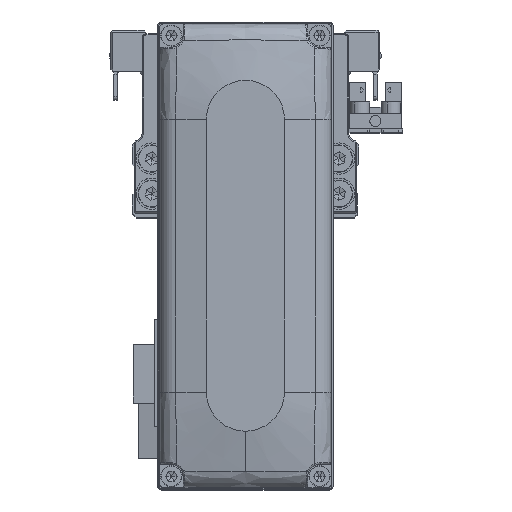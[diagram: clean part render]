
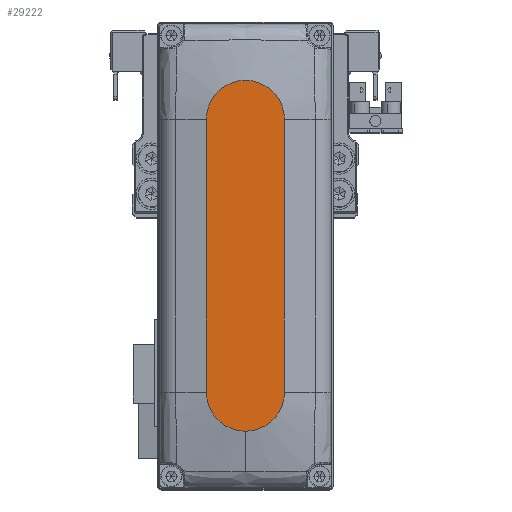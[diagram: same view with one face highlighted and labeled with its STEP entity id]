
A CAD part, top view. The second image highlights one B-rep face of the part: STEP entity #29222.
In plain terms, the highlighted planar face has unit normal (0, 0, 1).
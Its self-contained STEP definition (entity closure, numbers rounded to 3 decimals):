
#742 = CARTESIAN_POINT ( 'NONE',  ( 0., 0., 28. ) ) ;
#1606 = EDGE_CURVE ( 'NONE', #34730, #9644, #11415, .T. ) ;
#1930 = CARTESIAN_POINT ( 'NONE',  ( 35., 0., 28. ) ) ;
#4472 = DIRECTION ( 'NONE',  ( 1., 0., 0. ) ) ;
#6094 = EDGE_CURVE ( 'NONE', #29015, #34730, #13717, .T. ) ;
#7201 = AXIS2_PLACEMENT_3D ( 'NONE', #32312, #7547, #18566 ) ;
#7547 = DIRECTION ( 'NONE',  ( 0., 0., 1. ) ) ;
#8693 = AXIS2_PLACEMENT_3D ( 'NONE', #742, #11772, #22788 ) ;
#9238 = ORIENTED_EDGE ( 'NONE', *, *, #12185, .T. ) ;
#9644 = VERTEX_POINT ( 'NONE', #26989 ) ;
#9957 = ORIENTED_EDGE ( 'NONE', *, *, #15361, .T. ) ;
#10094 = CARTESIAN_POINT ( 'NONE',  ( -35., 10., 28. ) ) ;
#11415 = LINE ( 'NONE', #22410, #23743 ) ;
#11772 = DIRECTION ( 'NONE',  ( 0., 0., 1. ) ) ;
#12185 = EDGE_CURVE ( 'NONE', #20757, #29015, #34852, .T. ) ;
#12210 = EDGE_CURVE ( 'NONE', #9644, #33892, #22775, .T. ) ;
#12966 = DIRECTION ( 'NONE',  ( 0., 0., 1. ) ) ;
#13717 = CIRCLE ( 'NONE', #33907, 10. ) ;
#14490 = FACE_OUTER_BOUND ( 'NONE', #17308, .T. ) ;
#15153 = CARTESIAN_POINT ( 'NONE',  ( 35., 10., 28. ) ) ;
#15361 = EDGE_CURVE ( 'NONE', #33892, #20757, #32099, .T. ) ;
#16127 = CARTESIAN_POINT ( 'NONE',  ( -35., 10., 28. ) ) ;
#16518 = AXIS2_PLACEMENT_3D ( 'NONE', #1930, #12966, #23980 ) ;
#17308 = EDGE_LOOP ( 'NONE', ( #9238, #35446, #25647, #22921, #9957 ) ) ;
#18219 = CARTESIAN_POINT ( 'NONE',  ( -35., 0., 28. ) ) ;
#18566 = DIRECTION ( 'NONE',  ( 1., 0., 0. ) ) ;
#20757 = VERTEX_POINT ( 'NONE', #15153 ) ;
#21107 = DIRECTION ( 'NONE',  ( -1., 0., 0. ) ) ;
#22410 = CARTESIAN_POINT ( 'NONE',  ( -35., -10., 28. ) ) ;
#22775 = CIRCLE ( 'NONE', #7201, 10. ) ;
#22788 = DIRECTION ( 'NONE',  ( 1., 0., 0. ) ) ;
#22921 = ORIENTED_EDGE ( 'NONE', *, *, #12210, .T. ) ;
#23743 = VECTOR ( 'NONE', #33445, 1000. ) ;
#23980 = DIRECTION ( 'NONE',  ( 1., 0., 0. ) ) ;
#24491 = VECTOR ( 'NONE', #21107, 1000. ) ;
#25487 = PLANE ( 'NONE',  #8693 ) ;
#25647 = ORIENTED_EDGE ( 'NONE', *, *, #1606, .T. ) ;
#26989 = CARTESIAN_POINT ( 'NONE',  ( 35., -10., 28. ) ) ;
#29015 = VERTEX_POINT ( 'NONE', #16127 ) ;
#29222 = ADVANCED_FACE ( 'NONE', ( #14490 ), #25487, .T. ) ;
#29228 = DIRECTION ( 'NONE',  ( 0., 0., 1. ) ) ;
#30530 = CARTESIAN_POINT ( 'NONE',  ( 45., 0., 28. ) ) ;
#32099 = CIRCLE ( 'NONE', #16518, 10. ) ;
#32312 = CARTESIAN_POINT ( 'NONE',  ( 35., 0., 28. ) ) ;
#33445 = DIRECTION ( 'NONE',  ( 1., 0., 0. ) ) ;
#33892 = VERTEX_POINT ( 'NONE', #30530 ) ;
#33907 = AXIS2_PLACEMENT_3D ( 'NONE', #18219, #29228, #4472 ) ;
#34510 = CARTESIAN_POINT ( 'NONE',  ( -35., -10., 28. ) ) ;
#34730 = VERTEX_POINT ( 'NONE', #34510 ) ;
#34852 = LINE ( 'NONE', #10094, #24491 ) ;
#35446 = ORIENTED_EDGE ( 'NONE', *, *, #6094, .T. ) ;
